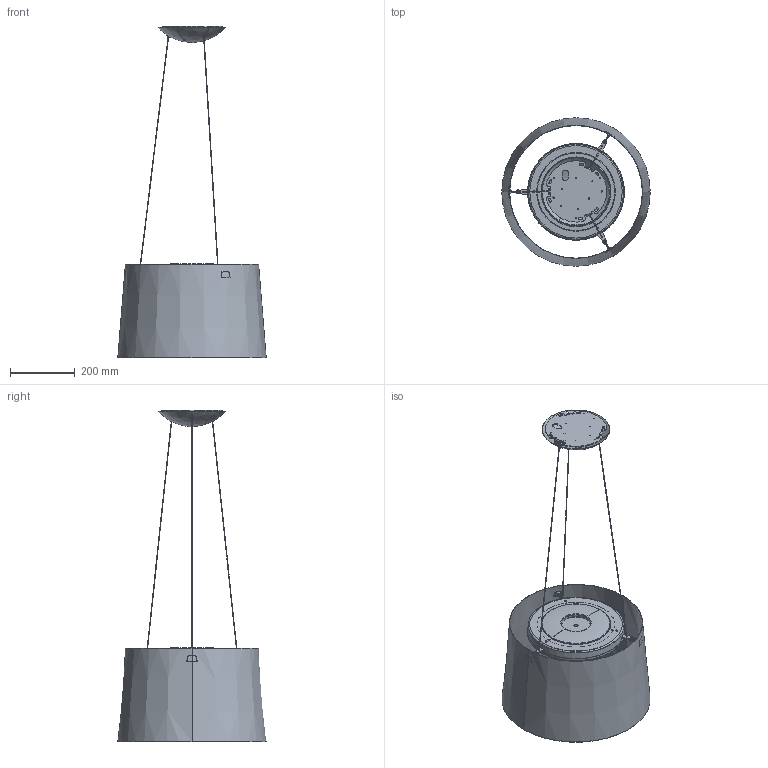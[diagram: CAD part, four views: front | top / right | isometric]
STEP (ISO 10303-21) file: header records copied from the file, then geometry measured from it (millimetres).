
FILE_DESCRIPTION (( 'STEP AP214' ), '1' );
FILE_NAME ('290_STD_OS_LD_2D.STEP', '2021-04-28T15:00:39', ( '' ), ( '' ), 'SwSTEP 2.0', 'SolidWorks 2021', '' );
FILE_SCHEMA (( 'AUTOMOTIVE_DESIGN' ));
Length unit declared in the file: millimetre
Products named in the file (1): 290_STD_OS_LD_2D
Bounding box: 460 x 460 x 1027.58 mm (x, y, z)
Volume: 735389.3 mm3; surface area: 1288596.4 mm2
Topology: 17 solids, 17 shells, 1128 faces, 2663 edges, 1653 vertices
Faces by surface type: plane 537, cylinder 324, cone 105, torus 86, bspline 72, sphere 4
Entity records: 48238 total; most frequent: CARTESIAN_POINT 9348, DIRECTION 5667, ORIENTED_EDGE 5326, EDGE_CURVE 2663, AXIS2_PLACEMENT_3D 2217, VERTEX_POINT 1653, EDGE_LOOP 1306, LINE 1233
